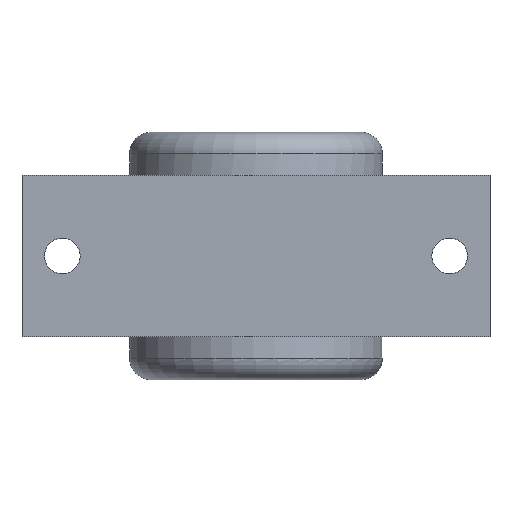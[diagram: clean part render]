
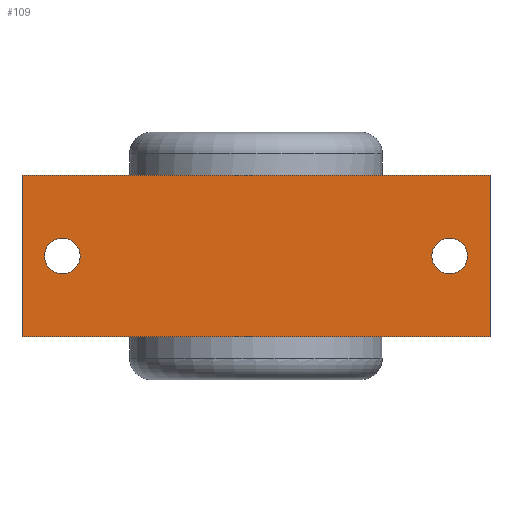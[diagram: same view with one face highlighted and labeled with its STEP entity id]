
A CAD part, front view. The second image highlights one B-rep face of the part: STEP entity #109.
In plain terms, the highlighted planar face has unit normal (0, -1, 0).
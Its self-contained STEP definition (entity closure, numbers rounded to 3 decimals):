
#109=ADVANCED_FACE('',(#219,#220,#221),#222,.T.);
#219=FACE_BOUND('',#361,.T.);
#220=FACE_OUTER_BOUND('',#362,.T.);
#221=FACE_BOUND('',#363,.T.);
#222=PLANE('',#364);
#361=EDGE_LOOP('',(#684));
#362=EDGE_LOOP('',(#685,#686,#687,#688));
#363=EDGE_LOOP('',(#689));
#364=AXIS2_PLACEMENT_3D('',#690,#691,#692);
#684=ORIENTED_EDGE('',*,*,#952,.T.);
#685=ORIENTED_EDGE('',*,*,#994,.F.);
#686=ORIENTED_EDGE('',*,*,#995,.F.);
#687=ORIENTED_EDGE('',*,*,#996,.T.);
#688=ORIENTED_EDGE('',*,*,#992,.T.);
#689=ORIENTED_EDGE('',*,*,#951,.T.);
#690=CARTESIAN_POINT('',(43.5,0.,15.0));
#691=DIRECTION('',(0.0,-1.0,0.0));
#692=DIRECTION('',(1.0,0.0,0.0));
#951=EDGE_CURVE('',#1149,#1149,#1150,.F.);
#952=EDGE_CURVE('',#1151,#1151,#1152,.F.);
#992=EDGE_CURVE('',#1215,#1213,#1216,.T.);
#994=EDGE_CURVE('',#1218,#1213,#1219,.T.);
#995=EDGE_CURVE('',#1220,#1218,#1221,.T.);
#996=EDGE_CURVE('',#1220,#1215,#1222,.T.);
#1149=VERTEX_POINT('',#1434);
#1150=CIRCLE('',#1435,3.3);
#1151=VERTEX_POINT('',#1436);
#1152=CIRCLE('',#1437,3.3);
#1213=VERTEX_POINT('',#1527);
#1215=VERTEX_POINT('',#1530);
#1216=LINE('',#1531,#1532);
#1218=VERTEX_POINT('',#1535);
#1219=LINE('',#1536,#1537);
#1220=VERTEX_POINT('',#1538);
#1221=LINE('',#1539,#1540);
#1222=LINE('',#1541,#1542);
#1434=CARTESIAN_POINT('',(36.0,0.0,-3.3));
#1435=AXIS2_PLACEMENT_3D('',#1731,#1732,#1733);
#1436=CARTESIAN_POINT('',(-36.0,0.0,-3.3));
#1437=AXIS2_PLACEMENT_3D('',#1734,#1735,#1736);
#1527=CARTESIAN_POINT('',(-43.5,0.,-15.0));
#1530=CARTESIAN_POINT('',(-43.5,0.,15.0));
#1531=CARTESIAN_POINT('',(-43.5,0.,15.0));
#1532=VECTOR('',#1794,1.0);
#1535=CARTESIAN_POINT('',(43.5,0.,-15.0));
#1536=CARTESIAN_POINT('',(43.5,0.,-15.0));
#1537=VECTOR('',#1796,1.0);
#1538=CARTESIAN_POINT('',(43.5,0.,15.0));
#1539=CARTESIAN_POINT('',(43.5,0.,15.0));
#1540=VECTOR('',#1797,1.0);
#1541=CARTESIAN_POINT('',(43.5,0.,15.0));
#1542=VECTOR('',#1798,1.0);
#1731=CARTESIAN_POINT('',(36.0,0.0,0.0));
#1732=DIRECTION('',(0.0,-1.0,0.0));
#1733=DIRECTION('',(0.0,0.0,-1.0));
#1734=CARTESIAN_POINT('',(-36.0,0.0,0.0));
#1735=DIRECTION('',(0.0,-1.0,0.0));
#1736=DIRECTION('',(0.0,0.0,-1.0));
#1794=DIRECTION('',(0.0,0.0,-1.0));
#1796=DIRECTION('',(-1.0,0.,0.0));
#1797=DIRECTION('',(0.0,0.0,-1.0));
#1798=DIRECTION('',(-1.0,0.,0.0));
